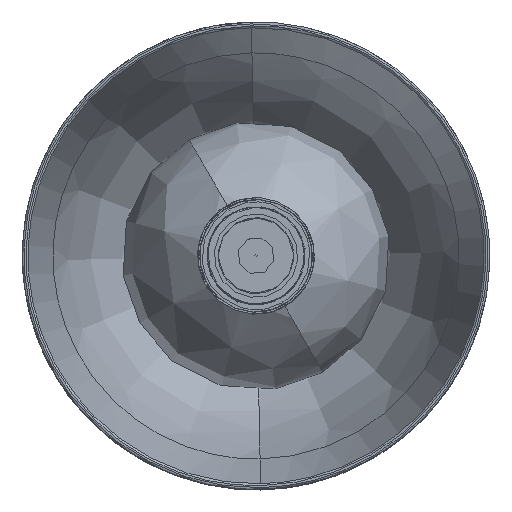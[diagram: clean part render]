
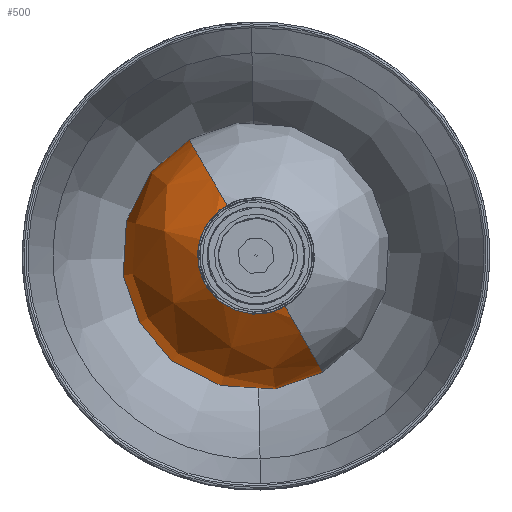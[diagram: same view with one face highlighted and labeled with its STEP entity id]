
A CAD part, top view. The second image highlights one B-rep face of the part: STEP entity #500.
In plain terms, the highlighted free-form (B-spline) face has degree [2, 2] with [5, 5] control points.
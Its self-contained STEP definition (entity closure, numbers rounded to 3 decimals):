
#500=ADVANCED_FACE('',(#834),#4652,.T.);
#834=FACE_OUTER_BOUND('',#1168,.T.);
#1168=EDGE_LOOP('',(#2589,#2590,#2591,#2592));
#2589=ORIENTED_EDGE('',*,*,#3303,.T.);
#2590=ORIENTED_EDGE('',*,*,#3302,.T.);
#2591=ORIENTED_EDGE('',*,*,#3301,.T.);
#2592=ORIENTED_EDGE('',*,*,#3317,.F.);
#3301=EDGE_CURVE('',#4492,#4491,#4023,.T.);
#3302=EDGE_CURVE('',#4490,#4492,#4024,.T.);
#3303=EDGE_CURVE('',#4489,#4490,#4025,.T.);
#3317=EDGE_CURVE('',#4489,#4491,#4037,.T.);
#4023=(
BOUNDED_CURVE()
B_SPLINE_CURVE(2,(#17355,#17356,#17357,#17358,#17359),.UNSPECIFIED.,.F.,
 .F.)
B_SPLINE_CURVE_WITH_KNOTS((3,2,3),(0.,43.609,87.217),
 .UNSPECIFIED.)
CURVE()
GEOMETRIC_REPRESENTATION_ITEM()
RATIONAL_B_SPLINE_CURVE((1.,0.707,1.,0.707,1.))
REPRESENTATION_ITEM('')
);
#4024=(
BOUNDED_CURVE()
B_SPLINE_CURVE(2,(#17360,#17361,#17362,#17363,#17364),.UNSPECIFIED.,.F.,
 .F.)
B_SPLINE_CURVE_WITH_KNOTS((3,2,3),(28.572,108.385,188.198),
 .UNSPECIFIED.)
CURVE()
GEOMETRIC_REPRESENTATION_ITEM()
RATIONAL_B_SPLINE_CURVE((1.,0.837,1.,0.837,1.))
REPRESENTATION_ITEM('')
);
#4025=(
BOUNDED_CURVE()
B_SPLINE_CURVE(2,(#17365,#17366,#17367,#17368,#17369),.UNSPECIFIED.,.F.,
 .F.)
B_SPLINE_CURVE_WITH_KNOTS((3,2,3),(87.217,130.826,174.435),
 .UNSPECIFIED.)
CURVE()
GEOMETRIC_REPRESENTATION_ITEM()
RATIONAL_B_SPLINE_CURVE((1.,0.707,1.,0.707,1.))
REPRESENTATION_ITEM('')
);
#4037=(
BOUNDED_CURVE()
B_SPLINE_CURVE(2,(#17427,#17428,#17429,#17430,#17431),.UNSPECIFIED.,.F.,
 .F.)
B_SPLINE_CURVE_WITH_KNOTS((3,2,3),(28.572,108.385,188.198),
 .UNSPECIFIED.)
CURVE()
GEOMETRIC_REPRESENTATION_ITEM()
RATIONAL_B_SPLINE_CURVE((1.,0.837,1.,0.837,1.))
REPRESENTATION_ITEM('')
);
#4489=VERTEX_POINT('',#17288);
#4490=VERTEX_POINT('',#17289);
#4491=VERTEX_POINT('',#17290);
#4492=VERTEX_POINT('',#17291);
#4652=(
BOUNDED_SURFACE()
B_SPLINE_SURFACE(2,2,((#17210,#17211,#17212,#17213,#17214),(#17215,#17216,
#17217,#17218,#17219),(#17220,#17221,#17222,#17223,#17224),(#17225,#17226,
#17227,#17228,#17229),(#17230,#17231,#17232,#17233,#17234)),
 .UNSPECIFIED.,.F.,.F.,.F.)
B_SPLINE_SURFACE_WITH_KNOTS((3,2,3),(3,2,3),(216.77,325.155,
433.54),(0.,108.385,216.77),.UNSPECIFIED.)
GEOMETRIC_REPRESENTATION_ITEM()
RATIONAL_B_SPLINE_SURFACE(((1.,0.707,1.,0.707,1.),
(0.707,0.5,0.707,0.5,0.707),(1.,0.707,
1.,0.707,1.),(0.707,0.5,0.707,0.5,0.707),
(1.,0.707,1.,0.707,1.)))
REPRESENTATION_ITEM('')
SURFACE()
);
#17210=CARTESIAN_POINT('',(0.,0.,-69.));
#17211=CARTESIAN_POINT('',(69.,0.,-69.));
#17212=CARTESIAN_POINT('',(69.,0.,0.));
#17213=CARTESIAN_POINT('',(69.,0.,69.));
#17214=CARTESIAN_POINT('',(0.,0.,69.));
#17215=CARTESIAN_POINT('',(0.,0.,-69.));
#17216=CARTESIAN_POINT('',(69.,69.,-69.));
#17217=CARTESIAN_POINT('',(69.,69.,0.));
#17218=CARTESIAN_POINT('',(69.,69.,69.));
#17219=CARTESIAN_POINT('',(0.,0.,69.));
#17220=CARTESIAN_POINT('',(0.,0.,-69.));
#17221=CARTESIAN_POINT('',(0.,69.,-69.));
#17222=CARTESIAN_POINT('',(0.,69.,0.));
#17223=CARTESIAN_POINT('',(0.,69.,69.));
#17224=CARTESIAN_POINT('',(0.,0.,69.));
#17225=CARTESIAN_POINT('',(0.,0.,-69.));
#17226=CARTESIAN_POINT('',(-69.,69.,-69.));
#17227=CARTESIAN_POINT('',(-69.,69.,0.));
#17228=CARTESIAN_POINT('',(-69.,69.,69.));
#17229=CARTESIAN_POINT('',(0.,0.,69.));
#17230=CARTESIAN_POINT('',(0.,0.,-69.));
#17231=CARTESIAN_POINT('',(-69.,0.,-69.));
#17232=CARTESIAN_POINT('',(-69.,0.,0.));
#17233=CARTESIAN_POINT('',(-69.,0.,69.));
#17234=CARTESIAN_POINT('',(0.,0.,69.));
#17288=CARTESIAN_POINT('',(27.762,0.,-63.169));
#17289=CARTESIAN_POINT('',(-27.762,0.,-63.169));
#17290=CARTESIAN_POINT('',(27.762,0.,63.169));
#17291=CARTESIAN_POINT('',(-27.762,0.,63.169));
#17355=CARTESIAN_POINT('',(-27.762,0.,63.169));
#17356=CARTESIAN_POINT('',(-27.762,27.762,63.169));
#17357=CARTESIAN_POINT('',(0.,27.762,63.169));
#17358=CARTESIAN_POINT('',(27.762,27.762,63.169));
#17359=CARTESIAN_POINT('',(27.762,0.,63.169));
#17360=CARTESIAN_POINT('',(-27.762,0.,-63.169));
#17361=CARTESIAN_POINT('',(-69.,0.,-45.045));
#17362=CARTESIAN_POINT('',(-69.,0.,0.));
#17363=CARTESIAN_POINT('',(-69.,0.,45.045));
#17364=CARTESIAN_POINT('',(-27.762,0.,63.169));
#17365=CARTESIAN_POINT('',(27.762,0.,-63.169));
#17366=CARTESIAN_POINT('',(27.762,27.762,-63.169));
#17367=CARTESIAN_POINT('',(0.,27.762,-63.169));
#17368=CARTESIAN_POINT('',(-27.762,27.762,-63.169));
#17369=CARTESIAN_POINT('',(-27.762,0.,-63.169));
#17427=CARTESIAN_POINT('',(27.762,0.,-63.169));
#17428=CARTESIAN_POINT('',(69.,0.,-45.045));
#17429=CARTESIAN_POINT('',(69.,0.,0.));
#17430=CARTESIAN_POINT('',(69.,0.,45.045));
#17431=CARTESIAN_POINT('',(27.762,0.,63.169));
